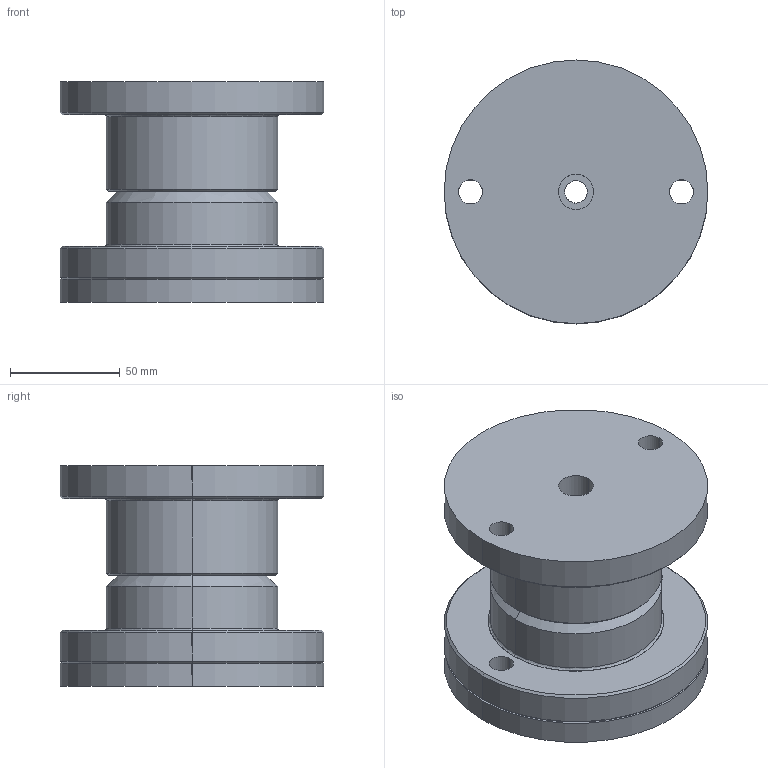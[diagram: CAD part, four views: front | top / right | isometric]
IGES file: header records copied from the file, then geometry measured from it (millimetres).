
Start section: START RECORD GO HERE.
Global section: file name: CFCCP12.igs; native system: DASSAULT SYSTEMES CATIA V5 R20 - www.3ds.com; preprocessor: CATIA Version 5 Release 20 ; author: Utente; organization: NB04-ASUS; date: 20201027.205955; units: millimetre
Bounding box: 120 x 120 x 100.5 mm (x, y, z)
Surface area: 104802.1 mm2 (no closed solid volume)
Topology: 0 solids, 0 shells, 80 faces, 356 edges, 352 vertices
Faces by surface type: revolution 72, plane 8
